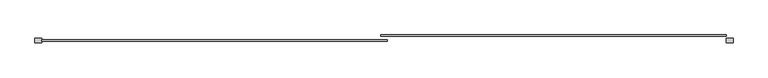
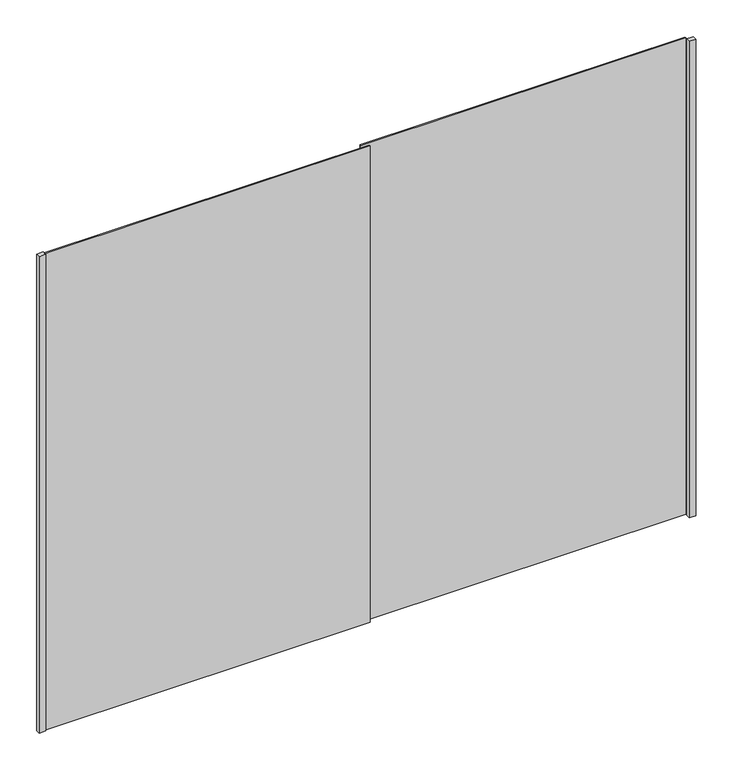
"""IFC4 building model written with IfcOpenShell, lengths in millimetres: furniture geometry, Puerta Closet corre 2 hojas : Puerta corrdiza 2 hojas PCLE-02."""

from ifc_helpers import new_model, si_unit, origin, origin_with_axes, place, context, project, spatial, polyline, outline, extrude, source, transform, mapped, element, save


def furniture_5b101463(model_context):
    return source(origin(), model_context, "Body", "SweptSolid", [
        extrude(outline(polyline([(960.0, 80.0), (930.0, 80.0), (930.0, 100.0), (960.0, 100.0), (960.0, 80.0)])), origin_with_axes(), (0.0, 0.0, 1.0), 2300.0),
        extrude(outline(polyline([(930.0, 106.6666667), (-555.0, 106.6666667), (-555.0, 113.3333333), (930.0, 113.3333333), (930.0, 106.6666667)])), origin_with_axes(), (0.0, 0.0, 1.0), 2300.0),
        extrude(outline(polyline([(-525.0, 86.6666667), (-2010.0, 86.6666667), (-2010.0, 93.3333333), (-525.0, 93.3333333), (-525.0, 86.6666667)])), origin_with_axes(), (0.0, 0.0, 1.0), 2300.0),
        extrude(outline(polyline([(-2040.0, 80.0), (-2040.0, 100.0), (-2010.0, 100.0), (-2010.0, 80.0), (-2040.0, 80.0)])), origin_with_axes(), (0.0, 0.0, 1.0), 2300.0),
    ])


if __name__ == "__main__":
    model = new_model("IFC4")
    model_context = context("Model", 3, world=origin())
    ifc_project = project(units=[si_unit("LENGTHUNIT", "METRE", prefix="MILLI")], contexts=[model_context])
    site = spatial("IfcSite", under=ifc_project)
    building = spatial("IfcBuilding", under=site)
    placement = place(None, origin())
    furniture_shape = furniture_5b101463(model_context)
    element("IfcFurniture", 1, ObjectType="Puerta Closet corre 2 hojas : Puerta corrdiza 2 hojas PCLE-02", at=placement, inside=building, context=model_context, shape_type="MappedRepresentation", body=[
        mapped(furniture_shape, transform((0.0, 0.0, 0.0), x_axis=(1.0, 0.0, 0.0), y_axis=(0.0, 1.0, 0.0), z_axis=(0.0, 0.0, 1.0))),
    ])
    save(model, "model.ifc")
